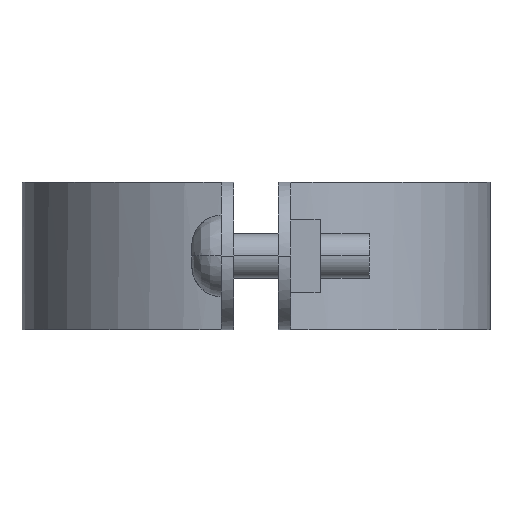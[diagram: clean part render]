
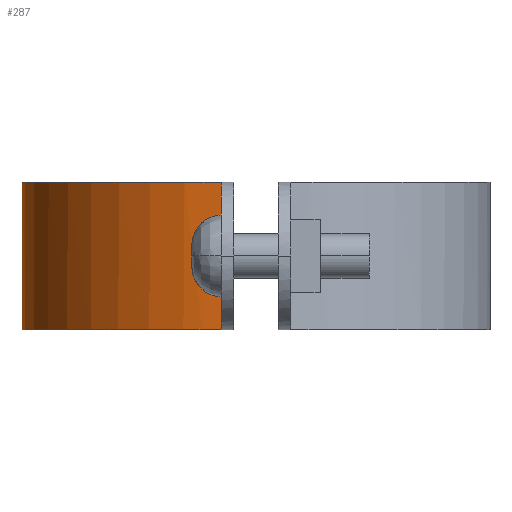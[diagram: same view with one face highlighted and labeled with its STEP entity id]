
A CAD part, left-side view. The second image highlights one B-rep face of the part: STEP entity #287.
In plain terms, the highlighted free-form (B-spline) face has degree [3, 1] with [4, 2] control points.
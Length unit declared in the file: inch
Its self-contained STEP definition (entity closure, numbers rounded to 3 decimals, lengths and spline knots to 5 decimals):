
#287=ADVANCED_FACE('',(#550),#551,.T.);
#550=FACE_OUTER_BOUND('',#1233,.T.);
#551=B_SPLINE_SURFACE_WITH_KNOTS('',3,1,((#1234,#1235),(#1236,#1237),(#1238,#1239),(#1240,#1241)),.UNSPECIFIED.,.F.,.F.,.F.,(4,4),(2,2),(0.0,1.0),(0.0,1.25),.UNSPECIFIED.);
#1233=EDGE_LOOP('',(#1828,#1829,#1830,#1831));
#1234=CARTESIAN_POINT('',(2.718,3.98302,0.0));
#1235=CARTESIAN_POINT('',(2.718,3.98302,1.25));
#1236=CARTESIAN_POINT('',(1.73731,3.98302,0.0));
#1237=CARTESIAN_POINT('',(1.73731,3.98302,1.25));
#1238=CARTESIAN_POINT('',(0.9043,3.26521,0.0));
#1239=CARTESIAN_POINT('',(0.9043,3.26521,1.25));
#1240=CARTESIAN_POINT('',(0.75943,2.29528,0.0));
#1241=CARTESIAN_POINT('',(0.75943,2.29528,1.25));
#1828=ORIENTED_EDGE('',*,*,#2083,.T.);
#1829=ORIENTED_EDGE('',*,*,#2032,.F.);
#1830=ORIENTED_EDGE('',*,*,#2109,.T.);
#1831=ORIENTED_EDGE('',*,*,#2151,.T.);
#2032=EDGE_CURVE('',#2363,#2365,#2366,.T.);
#2083=EDGE_CURVE('',#2443,#2365,#2444,.T.);
#2109=EDGE_CURVE('',#2363,#2479,#2481,.T.);
#2151=EDGE_CURVE('',#2479,#2443,#2534,.T.);
#2363=VERTEX_POINT('',#2891);
#2365=VERTEX_POINT('',#2894);
#2366=LINE('',#2895,#2896);
#2443=VERTEX_POINT('',#3024);
#2444=B_SPLINE_CURVE_WITH_KNOTS('',3,(#3025,#3026,#3027,#3028),.UNSPECIFIED.,.F.,.F.,(4,4),(-1.0,-0.0),.UNSPECIFIED.);
#2479=VERTEX_POINT('',#3129);
#2481=B_SPLINE_CURVE_WITH_KNOTS('',3,(#3132,#3133,#3134,#3135),.UNSPECIFIED.,.F.,.F.,(4,4),(0.0,1.0),.UNSPECIFIED.);
#2534=LINE('',#3232,#3233);
#2891=CARTESIAN_POINT('',(2.718,3.98302,0.00012));
#2894=CARTESIAN_POINT('',(2.718,3.98302,1.24992));
#2895=CARTESIAN_POINT('',(2.718,3.98302,0.0));
#2896=VECTOR('',#3382,1.0);
#3024=CARTESIAN_POINT('',(0.75943,2.29528,1.24992));
#3025=CARTESIAN_POINT('',(0.75943,2.29528,1.24992));
#3026=CARTESIAN_POINT('',(0.9043,3.26521,1.24992));
#3027=CARTESIAN_POINT('',(1.73731,3.98302,1.24992));
#3028=CARTESIAN_POINT('',(2.718,3.98302,1.24992));
#3129=CARTESIAN_POINT('',(0.75943,2.29528,0.00012));
#3132=CARTESIAN_POINT('',(2.718,3.98302,0.00012));
#3133=CARTESIAN_POINT('',(1.73731,3.98302,0.00012));
#3134=CARTESIAN_POINT('',(0.9043,3.26521,0.00012));
#3135=CARTESIAN_POINT('',(0.75943,2.29528,0.00012));
#3232=CARTESIAN_POINT('',(0.75943,2.29528,0.0));
#3233=VECTOR('',#3449,1.0);
#3382=DIRECTION('',(0.0,0.0,1.0));
#3449=DIRECTION('',(0.0,0.0,1.0));
